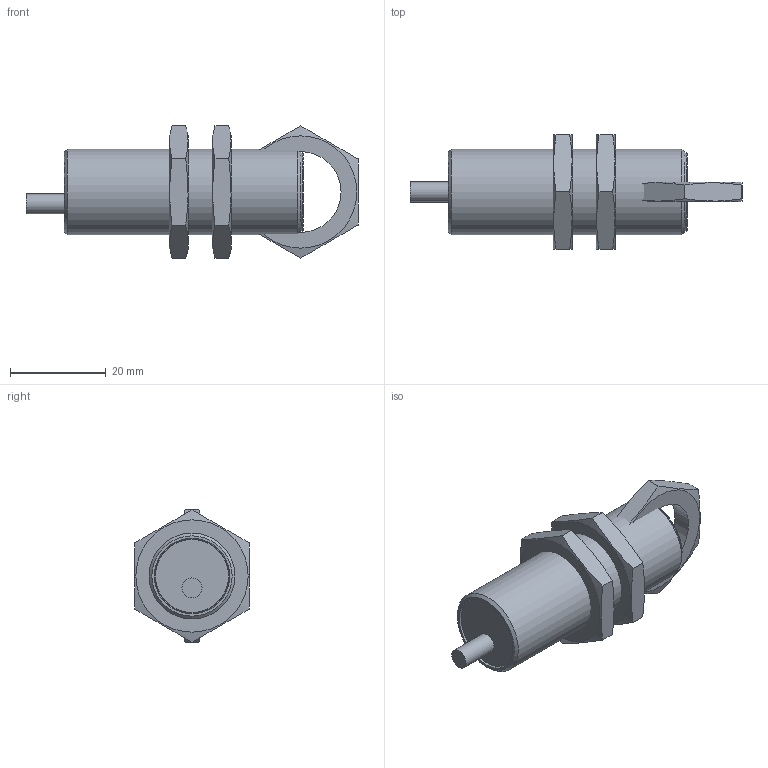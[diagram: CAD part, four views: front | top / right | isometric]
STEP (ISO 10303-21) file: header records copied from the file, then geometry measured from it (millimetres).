
FILE_DESCRIPTION( ( 'Unknown' ), '1' );
FILE_NAME( 'X:/SolidEdge/Models/Dokumentationen/Induktiv/IxRx 18_2011/Vereinfachte Modelle/Neutralformate/IFRM 18xxxA3_L.stp', 'Unknown', ( 'Unknown' ), ( 'Unknown' ), 'PSStep 14.0', 'Unknown', ' ' );
FILE_SCHEMA( ( 'AUTOMOTIVE_DESIGN { 1 0 10303 214 1 1 1 1 }' ) );
Length unit declared in the file: millimetre
Products named in the file (3): Assem1; 101474; IFRM 18xxxA3_L_oA
Bounding box: 69.5 x 24 x 27.71 mm (x, y, z)
Volume: 28695.9 mm3; surface area: 10045.4 mm2
Topology: 5 solids, 5 shells, 79 faces, 186 edges, 125 vertices
Faces by surface type: plane 36, cylinder 29, cone 14
Full cylindrical faces by diameter (mm): 4.2 x2, 15.3 x2, 16.4 x2, 16.917 x3, 18 x2
Entity records: 1148 total; most frequent: CARTESIAN_POINT 229, DIRECTION 140, ORIENTED_EDGE 106, AXIS2_PLACEMENT_3D 64, EDGE_CURVE 53, EDGE_LOOP 48, VERTEX_POINT 41, FACE_OUTER_BOUND 36
